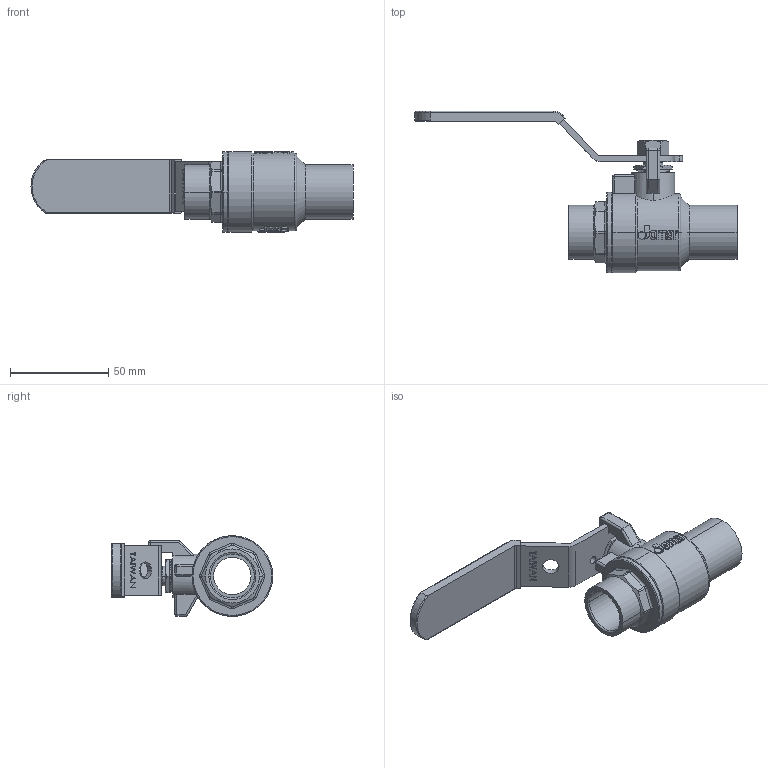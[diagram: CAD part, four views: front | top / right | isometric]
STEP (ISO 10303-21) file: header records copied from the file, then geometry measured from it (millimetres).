
FILE_DESCRIPTION (( 'STEP AP203' ), '1' );
FILE_NAME ('ABL714-無掛鎖-0.75''''JOMAR球閥體-CxC組合-無鉛-2025.STEP', '2025-06-25T06:54:02', ( '' ), ( '' ), 'SwSTEP 2.0', 'SolidWorks 2018', '' );
FILE_SCHEMA (( 'CONFIG_CONTROL_DESIGN' ));
Length unit declared in the file: millimetre
Products named in the file (13): EBL104; CBL215-白色膠套-S-200CSSG; EBL205A; GBL205 (組裝); TBL264A; NBL265; BBL714-0.75''''JOMAR球閥體-CxC-無鉛無插溝; EBL205B; CBL235-20230914改; RBL264; DN20-CBL714-HANDLE & SLEEVE 組合(白色S膠套); ABL714-無掛鎖-0.75''''JOMAR球閥體-CxC組合-無鉛-2025; BBL714A-0.75''''JOMAR²y»Ö-CxC´U»\-µL¹]µL´¡·¾
Assembly tree (13 placements, depth 3):
  ABL714-無掛鎖-0.75''''JOMAR球閥體-CxC組合-無鉛-2025
    BBL714-0.75''''JOMAR球閥體-CxC-無鉛無插溝
    RBL264
    EBL205A
    EBL205B
    GBL205 (組裝)
    TBL264A
    BBL714A-0.75''''JOMAR²y»Ö-CxC´U»\-µL¹]µL´¡·¾
    EBL104  x2
    NBL265
    DN20-CBL714-HANDLE & SLEEVE 組合(白色S膠套)
      CBL235-20230914改
      CBL215-白色膠套-S-200CSSG
Bounding box: 163.7 x 82.01 x 41 mm (x, y, z)
Volume: 65915.2 mm3; surface area: 52757.3 mm2
Topology: 12 solids, 12 shells, 2195 faces, 5857 edges, 3860 vertices
Faces by surface type: plane 1173, bspline 653, cylinder 259, cone 63, torus 33, sphere 14
Entity records: 108364 total; most frequent: CARTESIAN_POINT 57486, ORIENTED_EDGE 11642, DIRECTION 7739, EDGE_CURVE 5821, VERTEX_POINT 3842, LINE 3655, VECTOR 3655, EDGE_LOOP 2389
